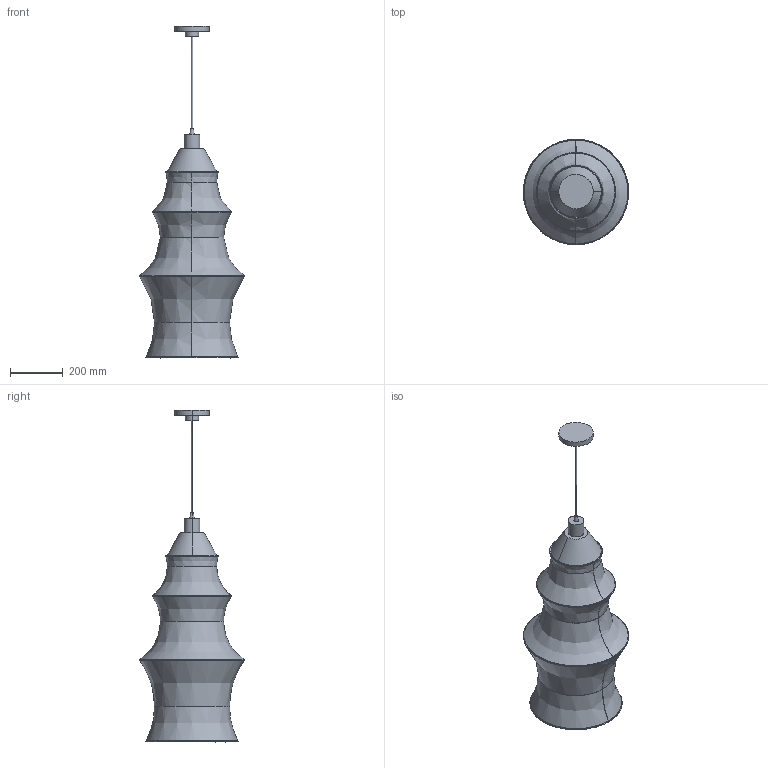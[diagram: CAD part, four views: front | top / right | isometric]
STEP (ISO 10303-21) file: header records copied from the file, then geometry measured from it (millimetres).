
FILE_DESCRIPTION(/* description */ (''),/* implementation_level */ '2;1');
FILE_NAME(/* name */ 'FALKLAND SOSPENSIONE 85',/* time_stamp */ '2017-07-25T16:01:57+02:00',/* author */ (''),/* organization */ (''),/* preprocessor_version */ 'ST-DEVELOPER v10',/* originating_system */ '',/* authorisation */ '');
FILE_SCHEMA (('CONFIG_CONTROL_DESIGN'));
Length unit declared in the file: millimetre
Products named in the file (1): 1
Bounding box: 399.91 x 400 x 1259.61 mm (x, y, z)
Volume: 2828523.7 mm3; surface area: 1552284.9 mm2
Topology: 9 solids, 21 shells, 91 faces, 246 edges, 159 vertices
Faces by surface type: bspline 80, plane 11
Entity records: 3535 total; most frequent: CARTESIAN_POINT 2300, ORIENTED_EDGE 436, EDGE_CURVE 218, VERTEX_POINT 139, EDGE_LOOP 93, ADVANCED_FACE 91, FACE_OUTER_BOUND 91, B_SPLINE_CURVE_WITH_KNOTS 18
